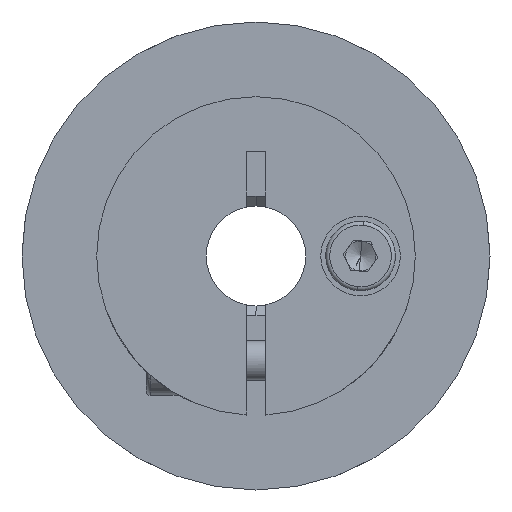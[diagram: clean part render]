
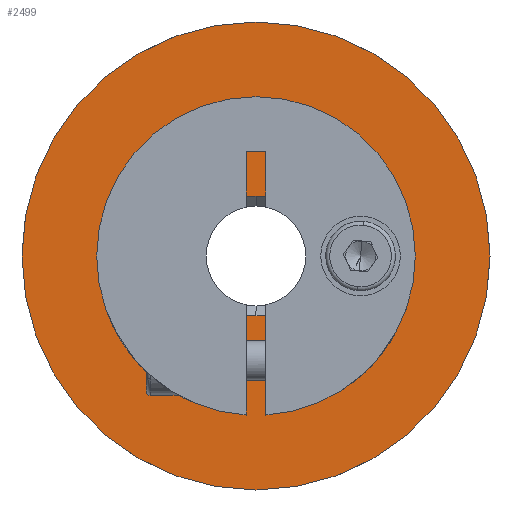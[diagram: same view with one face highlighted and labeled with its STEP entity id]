
A CAD part, left-side view. The second image highlights one B-rep face of the part: STEP entity #2499.
In plain terms, the highlighted planar face has unit normal (-1, 0, 0).
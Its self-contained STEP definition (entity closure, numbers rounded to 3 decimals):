
#126 = EDGE_CURVE ( 'NONE', #2083, #3676, #3562, .T. ) ;
#128 = FACE_OUTER_BOUND ( 'NONE', #2449, .T. ) ;
#132 = DIRECTION ( 'NONE',  ( 0., 0., 1. ) ) ;
#234 = DIRECTION ( 'NONE',  ( -1., 0., 0. ) ) ;
#330 = DIRECTION ( 'NONE',  ( 0., 0., 1. ) ) ;
#505 = EDGE_CURVE ( 'NONE', #2258, #1978, #3471, .T. ) ;
#607 = EDGE_CURVE ( 'NONE', #3676, #2083, #2444, .T. ) ;
#620 = DIRECTION ( 'NONE',  ( -1., 0., 0. ) ) ;
#665 = VERTEX_POINT ( 'NONE', #1233 ) ;
#667 = CARTESIAN_POINT ( 'NONE',  ( 0., 0., 0. ) ) ;
#739 = AXIS2_PLACEMENT_3D ( 'NONE', #667, #4775, #1179 ) ;
#746 = CARTESIAN_POINT ( 'NONE',  ( 0., -10.5, 1.65 ) ) ;
#818 = AXIS2_PLACEMENT_3D ( 'NONE', #4998, #5405, #4523 ) ;
#1179 = DIRECTION ( 'NONE',  ( 0., 0., 1. ) ) ;
#1233 = CARTESIAN_POINT ( 'NONE',  ( 0., 0., 6.025 ) ) ;
#1257 = ORIENTED_EDGE ( 'NONE', *, *, #2324, .F. ) ;
#1268 = DIRECTION ( 'NONE',  ( 0., 0., 1. ) ) ;
#1516 = FACE_BOUND ( 'NONE', #5809, .T. ) ;
#1731 = DIRECTION ( 'NONE',  ( -1., 0., 0. ) ) ;
#1935 = CARTESIAN_POINT ( 'NONE',  ( 0., 0., 0. ) ) ;
#1978 = VERTEX_POINT ( 'NONE', #5126 ) ;
#2083 = VERTEX_POINT ( 'NONE', #3546 ) ;
#2220 = VERTEX_POINT ( 'NONE', #3338 ) ;
#2258 = VERTEX_POINT ( 'NONE', #4585 ) ;
#2324 = EDGE_CURVE ( 'NONE', #2220, #665, #3575, .T. ) ;
#2360 = DIRECTION ( 'NONE',  ( 1., 0., 0. ) ) ;
#2444 = CIRCLE ( 'NONE', #3956, 1.65 ) ;
#2447 = CARTESIAN_POINT ( 'NONE',  ( 0., -10.5, 0. ) ) ;
#2449 = EDGE_LOOP ( 'NONE', ( #4308, #5443 ) ) ;
#2488 = CARTESIAN_POINT ( 'NONE',  ( 0., -10.5, 0. ) ) ;
#2497 = ORIENTED_EDGE ( 'NONE', *, *, #126, .F. ) ;
#2499 = ADVANCED_FACE ( 'NONE', ( #1516, #3761, #128 ), #2821, .F. ) ;
#2607 = DIRECTION ( 'NONE',  ( -1., 0., 0. ) ) ;
#2669 = ORIENTED_EDGE ( 'NONE', *, *, #2934, .F. ) ;
#2821 = PLANE ( 'NONE',  #4349 ) ;
#2934 = EDGE_CURVE ( 'NONE', #665, #2220, #3930, .T. ) ;
#2970 = ORIENTED_EDGE ( 'NONE', *, *, #607, .F. ) ;
#3338 = CARTESIAN_POINT ( 'NONE',  ( 0., 0., -6.025 ) ) ;
#3471 = CIRCLE ( 'NONE', #739, 23.5 ) ;
#3479 = AXIS2_PLACEMENT_3D ( 'NONE', #1935, #620, #132 ) ;
#3546 = CARTESIAN_POINT ( 'NONE',  ( 0., -10.5, -1.65 ) ) ;
#3562 = CIRCLE ( 'NONE', #5754, 1.65 ) ;
#3575 = CIRCLE ( 'NONE', #3479, 6.025 ) ;
#3667 = CARTESIAN_POINT ( 'NONE',  ( 0., -23.782, 23.782 ) ) ;
#3676 = VERTEX_POINT ( 'NONE', #746 ) ;
#3761 = FACE_BOUND ( 'NONE', #4204, .T. ) ;
#3838 = AXIS2_PLACEMENT_3D ( 'NONE', #5645, #1731, #1268 ) ;
#3930 = CIRCLE ( 'NONE', #3838, 6.025 ) ;
#3931 = DIRECTION ( 'NONE',  ( 0., 0., -1. ) ) ;
#3948 = CIRCLE ( 'NONE', #818, 23.5 ) ;
#3956 = AXIS2_PLACEMENT_3D ( 'NONE', #2447, #234, #4252 ) ;
#4204 = EDGE_LOOP ( 'NONE', ( #2669, #1257 ) ) ;
#4252 = DIRECTION ( 'NONE',  ( 0., 0., 1. ) ) ;
#4308 = ORIENTED_EDGE ( 'NONE', *, *, #505, .T. ) ;
#4349 = AXIS2_PLACEMENT_3D ( 'NONE', #3667, #2360, #3931 ) ;
#4523 = DIRECTION ( 'NONE',  ( 0., 0., 1. ) ) ;
#4585 = CARTESIAN_POINT ( 'NONE',  ( 0., 0., 23.5 ) ) ;
#4775 = DIRECTION ( 'NONE',  ( -1., 0., 0. ) ) ;
#4905 = EDGE_CURVE ( 'NONE', #1978, #2258, #3948, .T. ) ;
#4998 = CARTESIAN_POINT ( 'NONE',  ( 0., 0., 0. ) ) ;
#5126 = CARTESIAN_POINT ( 'NONE',  ( 0., 0., -23.5 ) ) ;
#5405 = DIRECTION ( 'NONE',  ( -1., 0., 0. ) ) ;
#5443 = ORIENTED_EDGE ( 'NONE', *, *, #4905, .T. ) ;
#5645 = CARTESIAN_POINT ( 'NONE',  ( 0., 0., 0. ) ) ;
#5754 = AXIS2_PLACEMENT_3D ( 'NONE', #2488, #2607, #330 ) ;
#5809 = EDGE_LOOP ( 'NONE', ( #2970, #2497 ) ) ;
